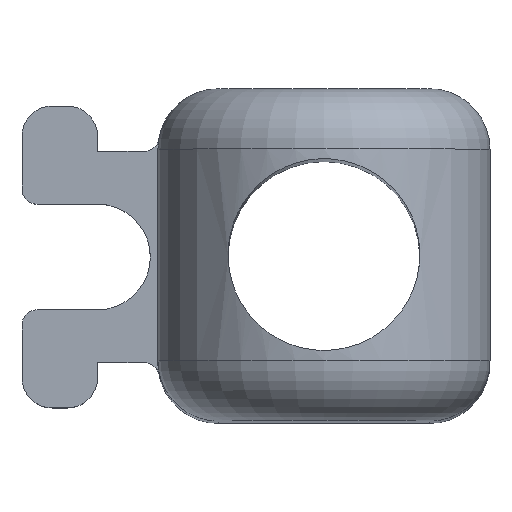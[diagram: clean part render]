
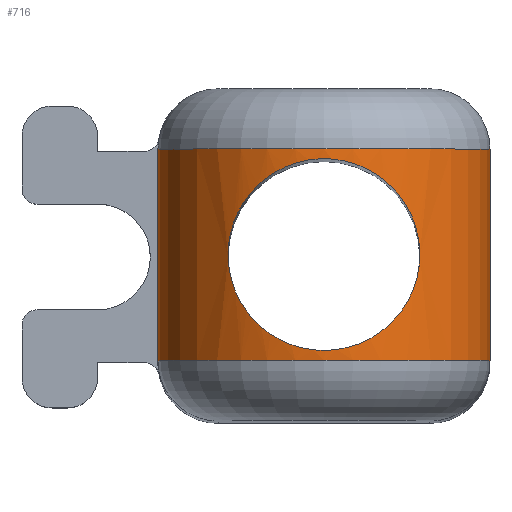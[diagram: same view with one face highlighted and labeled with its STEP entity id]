
A CAD part, top view. The second image highlights one B-rep face of the part: STEP entity #716.
In plain terms, the highlighted cylindrical face has radius 11 mm (diameter 22 mm), a partial arc.
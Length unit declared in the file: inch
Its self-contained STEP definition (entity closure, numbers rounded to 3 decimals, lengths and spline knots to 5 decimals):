
#39=FACE_BOUND('',#86,.T.);
#42=FACE_OUTER_BOUND('',#85,.T.);
#85=EDGE_LOOP('',(#482,#483,#484,#485));
#86=EDGE_LOOP('',(#486));
#129=B_SPLINE_CURVE_WITH_KNOTS('',3,(#1107,#1108,#1109,#1110,#1111,#1112,
#1113,#1114,#1115,#1116,#1117,#1118,#1119,#1120,#1121,#1122,#1123,#1124,
#1125,#1126,#1127,#1128,#1129,#1130,#1131,#1132,#1133,#1134,#1135,#1136,
#1137,#1138,#1139,#1140),.UNSPECIFIED.,.T.,.F.,(4,2,2,2,2,2,2,2,2,2,2,2,
2,2,2,2,4),(0.,0.24674,0.49347,0.73889,0.9843,
1.22972,1.47514,1.72187,1.96861,2.21534,
2.46208,2.70749,2.95291,3.19833,3.44374,
3.69048,3.93721),.UNSPECIFIED.);
#131=LINE('',#1146,#194);
#132=LINE('',#1149,#195);
#194=VECTOR('',#871,0.55118);
#195=VECTOR('',#874,0.55118);
#257=CIRCLE('',#775,0.43307);
#258=CIRCLE('',#776,0.43307);
#302=VERTEX_POINT('',#1105);
#303=VERTEX_POINT('',#1142);
#304=VERTEX_POINT('',#1143);
#305=VERTEX_POINT('',#1145);
#306=VERTEX_POINT('',#1147);
#371=EDGE_CURVE('',#302,#302,#129,.T.);
#372=EDGE_CURVE('',#303,#304,#257,.T.);
#373=EDGE_CURVE('',#303,#305,#131,.T.);
#374=EDGE_CURVE('',#306,#305,#258,.T.);
#375=EDGE_CURVE('',#304,#306,#132,.T.);
#482=ORIENTED_EDGE('',*,*,#372,.F.);
#483=ORIENTED_EDGE('',*,*,#373,.T.);
#484=ORIENTED_EDGE('',*,*,#374,.F.);
#485=ORIENTED_EDGE('',*,*,#375,.F.);
#486=ORIENTED_EDGE('',*,*,#371,.T.);
#697=CYLINDRICAL_SURFACE('',#774,0.43307);
#716=ADVANCED_FACE('',(#42,#39),#697,.T.);
#774=AXIS2_PLACEMENT_3D('',#1141,#867,#868);
#775=AXIS2_PLACEMENT_3D('',#1144,#869,#870);
#776=AXIS2_PLACEMENT_3D('',#1148,#872,#873);
#867=DIRECTION('center_axis',(0.,1.,0.));
#868=DIRECTION('ref_axis',(-1.,0.,0.));
#869=DIRECTION('center_axis',(0.,-1.,0.));
#870=DIRECTION('ref_axis',(0.,0.,1.));
#871=DIRECTION('',(0.,1.,0.));
#872=DIRECTION('center_axis',(0.,1.,0.));
#873=DIRECTION('ref_axis',(0.,0.,1.));
#874=DIRECTION('',(0.,1.,0.));
#1105=CARTESIAN_POINT('',(0.25,0.,4.25126));
#1107=CARTESIAN_POINT('Ctrl Pts',(0.25,0.,
4.25126));
#1108=CARTESIAN_POINT('Ctrl Pts',(0.25,-0.03238,
4.25126));
#1109=CARTESIAN_POINT('Ctrl Pts',(0.24337,-0.06614,
4.25618));
#1110=CARTESIAN_POINT('Ctrl Pts',(0.21767,-0.12738,
4.27234));
#1111=CARTESIAN_POINT('Ctrl Pts',(0.19861,-0.15495,
4.28322));
#1112=CARTESIAN_POINT('Ctrl Pts',(0.15506,-0.19849,
4.3027));
#1113=CARTESIAN_POINT('Ctrl Pts',(0.12746,-0.21763,
4.31272));
#1114=CARTESIAN_POINT('Ctrl Pts',(0.06605,-0.2434,
4.3268));
#1115=CARTESIAN_POINT('Ctrl Pts',(0.03221,-0.25,
4.33071));
#1116=CARTESIAN_POINT('Ctrl Pts',(-0.03221,-0.25,
4.33071));
#1117=CARTESIAN_POINT('Ctrl Pts',(-0.06605,-0.2434,
4.3268));
#1118=CARTESIAN_POINT('Ctrl Pts',(-0.12746,-0.21763,
4.31272));
#1119=CARTESIAN_POINT('Ctrl Pts',(-0.15506,-0.19849,
4.3027));
#1120=CARTESIAN_POINT('Ctrl Pts',(-0.19861,-0.15495,
4.28322));
#1121=CARTESIAN_POINT('Ctrl Pts',(-0.21767,-0.12738,
4.27234));
#1122=CARTESIAN_POINT('Ctrl Pts',(-0.24337,-0.06614,
4.25618));
#1123=CARTESIAN_POINT('Ctrl Pts',(-0.25,-0.03238,
4.25126));
#1124=CARTESIAN_POINT('Ctrl Pts',(-0.25,0.03238,
4.25126));
#1125=CARTESIAN_POINT('Ctrl Pts',(-0.24337,0.06614,
4.25618));
#1126=CARTESIAN_POINT('Ctrl Pts',(-0.21767,0.12738,
4.27234));
#1127=CARTESIAN_POINT('Ctrl Pts',(-0.19861,0.15495,
4.28322));
#1128=CARTESIAN_POINT('Ctrl Pts',(-0.15506,0.19849,
4.3027));
#1129=CARTESIAN_POINT('Ctrl Pts',(-0.12746,0.21763,
4.31272));
#1130=CARTESIAN_POINT('Ctrl Pts',(-0.06605,0.2434,
4.3268));
#1131=CARTESIAN_POINT('Ctrl Pts',(-0.03221,0.25,
4.33071));
#1132=CARTESIAN_POINT('Ctrl Pts',(0.03221,0.25,
4.33071));
#1133=CARTESIAN_POINT('Ctrl Pts',(0.06605,0.2434,
4.3268));
#1134=CARTESIAN_POINT('Ctrl Pts',(0.12746,0.21763,4.31272));
#1135=CARTESIAN_POINT('Ctrl Pts',(0.15506,0.19849,4.3027));
#1136=CARTESIAN_POINT('Ctrl Pts',(0.19861,0.15495,4.28322));
#1137=CARTESIAN_POINT('Ctrl Pts',(0.21767,0.12738,4.27234));
#1138=CARTESIAN_POINT('Ctrl Pts',(0.24337,0.06614,
4.25618));
#1139=CARTESIAN_POINT('Ctrl Pts',(0.25,0.03238,
4.25126));
#1140=CARTESIAN_POINT('Ctrl Pts',(0.25,0.,
4.25126));
#1141=CARTESIAN_POINT('Origin',(0.,0.,3.89764));
#1142=CARTESIAN_POINT('',(0.43307,-0.27559,3.89764));
#1143=CARTESIAN_POINT('',(-0.43307,-0.27559,3.89764));
#1144=CARTESIAN_POINT('Origin',(0.,-0.27559,
3.89764));
#1145=CARTESIAN_POINT('',(0.43307,0.27559,3.89764));
#1146=CARTESIAN_POINT('',(0.43307,-0.27559,3.89764));
#1147=CARTESIAN_POINT('',(-0.43307,0.27559,3.89764));
#1148=CARTESIAN_POINT('Origin',(0.,0.27559,
3.89764));
#1149=CARTESIAN_POINT('',(-0.43307,-0.27559,3.89764));
